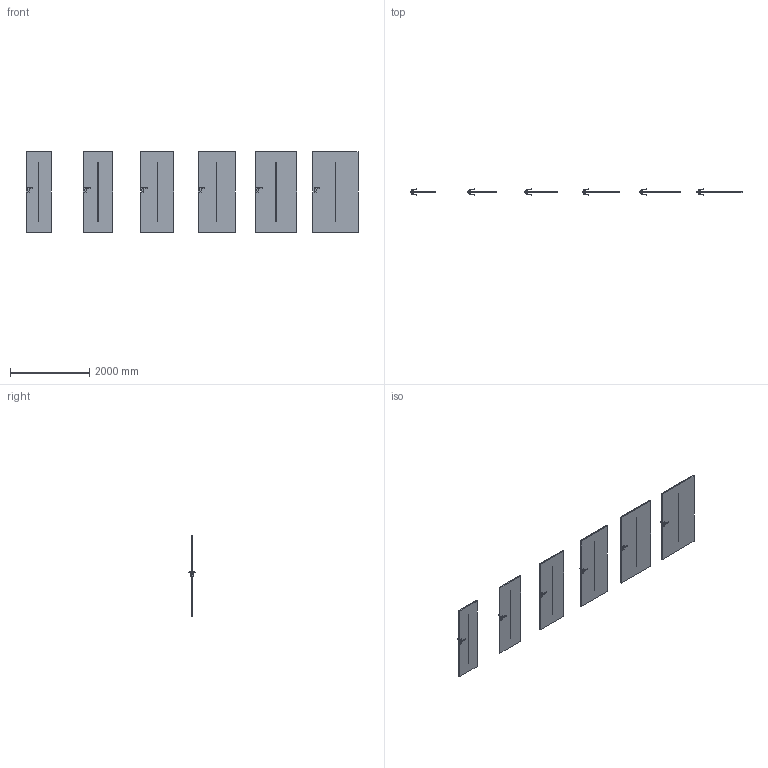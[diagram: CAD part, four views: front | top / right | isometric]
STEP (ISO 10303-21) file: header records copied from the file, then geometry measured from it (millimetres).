
FILE_DESCRIPTION(/* description */ (''),/* implementation_level */ '2;1');
FILE_NAME(/* name */ '049732_A_2-Skrzydło DESIRE model 6_ polska norma _PN__ odwrotna przylga..stp',/* time_stamp */ '2024-02-29T13:19:59+01:00',/* author */ (''),/* organization */ (''),/* preprocessor_version */ 'ST-DEVELOPER v16',/* originating_system */ 'SIEMENS PLM Software NX 11.0',/* authorisation */ '');
FILE_SCHEMA (('AUTOMOTIVE_DESIGN { 1 0 10303 214 3 1 1 1 }'));
Length unit declared in the file: millimetre
Products named in the file (1): bkni4F842FC9m47a
Bounding box: 8389 x 153.27 x 2027 mm (x, y, z)
Volume: 421986000.3 mm3; surface area: 23620976.1 mm2
Topology: 42 solids, 42 shells, 1200 faces, 2784 edges, 1560 vertices
Faces by surface type: plane 528, cylinder 312, bspline 192, sphere 168
Entity records: 39389 total; most frequent: CARTESIAN_POINT 13801, ORIENTED_EDGE 5232, DIRECTION 5090, EDGE_CURVE 2616, AXIS2_PLACEMENT_3D 1825, VERTEX_POINT 1560, LINE 1440, VECTOR 1440
